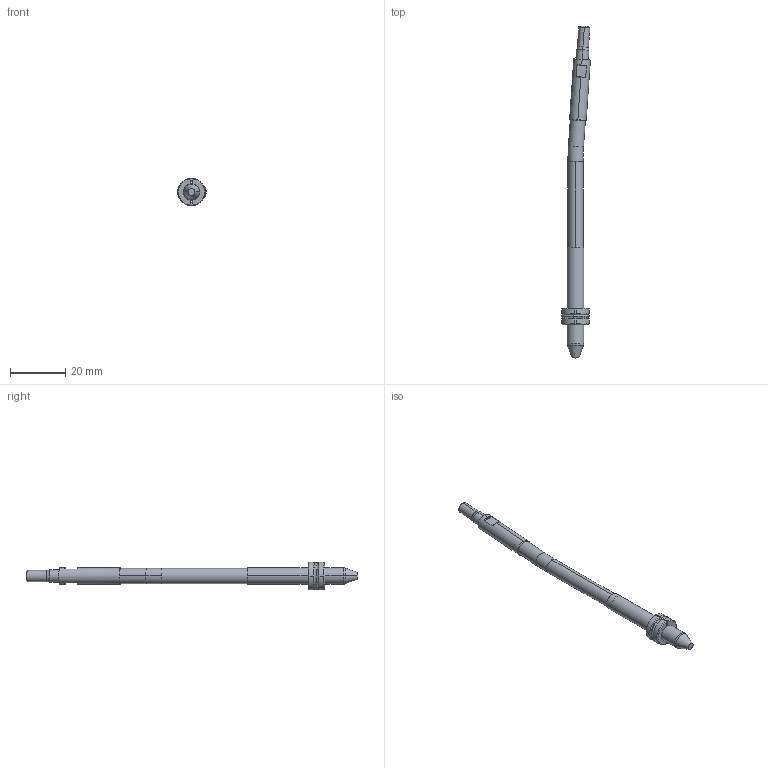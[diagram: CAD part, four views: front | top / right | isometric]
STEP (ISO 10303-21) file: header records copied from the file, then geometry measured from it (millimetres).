
FILE_DESCRIPTION (( 'STEP AP214' ), '1' );
FILE_NAME ('WP060030-INJ 4°.STEP', '2021-03-19T15:11:32', ( '' ), ( '' ), 'SwSTEP 2.0', 'SolidWorks 2019', '' );
FILE_SCHEMA (( 'AUTOMOTIVE_DESIGN' ));
Length unit declared in the file: millimetre
Products named in the file (6): WEB-008-JUNTA-JT7X1X9; WEB-001-9WP060030-1; WP060030-INJ 4°; WEB-002-9WP060030-2; WEB-006-9WP060030-6; WEB-007-9WP060030-F_WP060030-F-OFF 4ø
Assembly tree (5 placements, depth 2):
  WP060030-INJ 4°
    WEB-001-9WP060030-1
    WEB-007-9WP060030-F_WP060030-F-OFF 4ø
    WEB-002-9WP060030-2
    WEB-006-9WP060030-6
    WEB-008-JUNTA-JT7X1X9
Bounding box: 10.38 x 119.81 x 9.99 mm (x, y, z)
Volume: 3174 mm3; surface area: 2920.6 mm2
Topology: 6 solids, 6 shells, 112 faces, 262 edges, 164 vertices
Faces by surface type: cylinder 36, cone 28, plane 28, torus 20
Entity records: 3723 total; most frequent: CARTESIAN_POINT 714, DIRECTION 598, ORIENTED_EDGE 524, EDGE_CURVE 262, AXIS2_PLACEMENT_3D 256, VERTEX_POINT 164, CIRCLE 136, EDGE_LOOP 116
